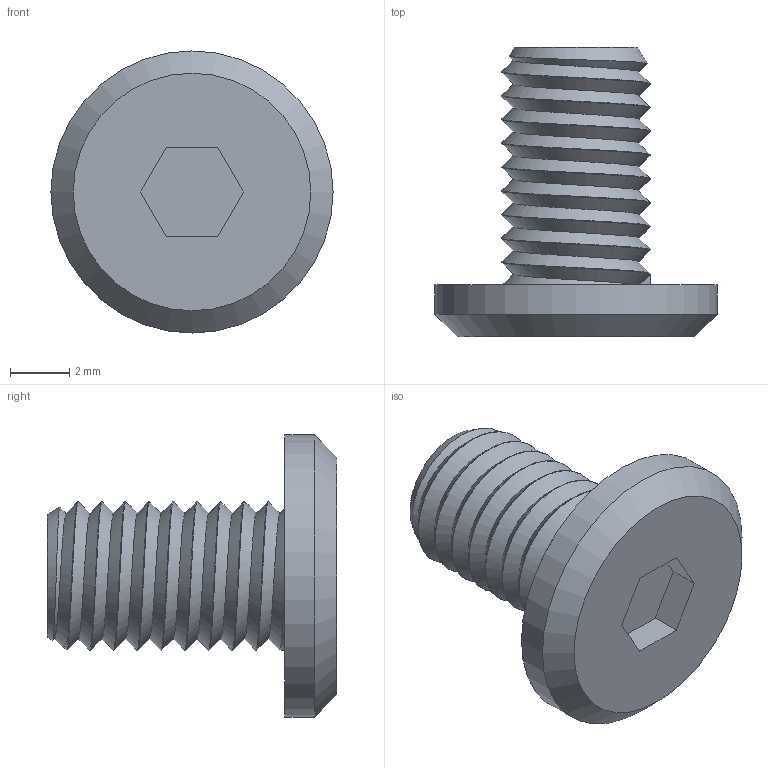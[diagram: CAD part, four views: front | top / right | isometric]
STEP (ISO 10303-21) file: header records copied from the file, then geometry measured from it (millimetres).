
FILE_DESCRIPTION(/* description */ ('STEP AP242 Edition 2','CAx-IF Rec.Pracs.---Representation and Presentation of Product Manufacturing Information (PMI)---4.0---2014-10-13','CAx-IF Rec.Pracs.---3D Tessellated Geometry---0.4---2014-09-14','2;1','CAx-IF Rec.Pracs.---User Defined Attributes---1.5---2016-08-15'),/* implementation_level */ '2;1');
FILE_NAME(/* name */ 'Final Build - M5x8 (7)',/* time_stamp */ '2026-08-31T23:26:20Z',/* author */ (''),/* organization */ (''),/* preprocessor_version */ 'ST-DEVELOPER v20',/* originating_system */ 'ONSHAPE BY PTC INC, 1.220',/* authorisation */ ' ');
FILE_SCHEMA (('AP242_MANAGED_MODEL_BASED_3D_ENGINEERING_MIM_LF { 1 0 10303 442 3 1 4 }'));
Length unit declared in the file: metre
Products named in the file (1): M5x8
Bounding box: 9.5 x 9.75 x 9.5 mm (x, y, z)
Volume: 241.9 mm3; surface area: 347.6 mm2
Topology: 1 solids, 1 shells, 18 faces, 41 edges, 27 vertices
Faces by surface type: plane 11, cylinder 3, cone 2, bspline 2
Full cylindrical faces by diameter (mm): 9.5 x1
Entity records: 2225 total; most frequent: CARTESIAN_POINT 1836, ORIENTED_EDGE 72, DIRECTION 69, EDGE_CURVE 36, VERTEX_POINT 25, AXIS2_PLACEMENT_3D 24, EDGE_LOOP 23, FACE_BOUND 23
